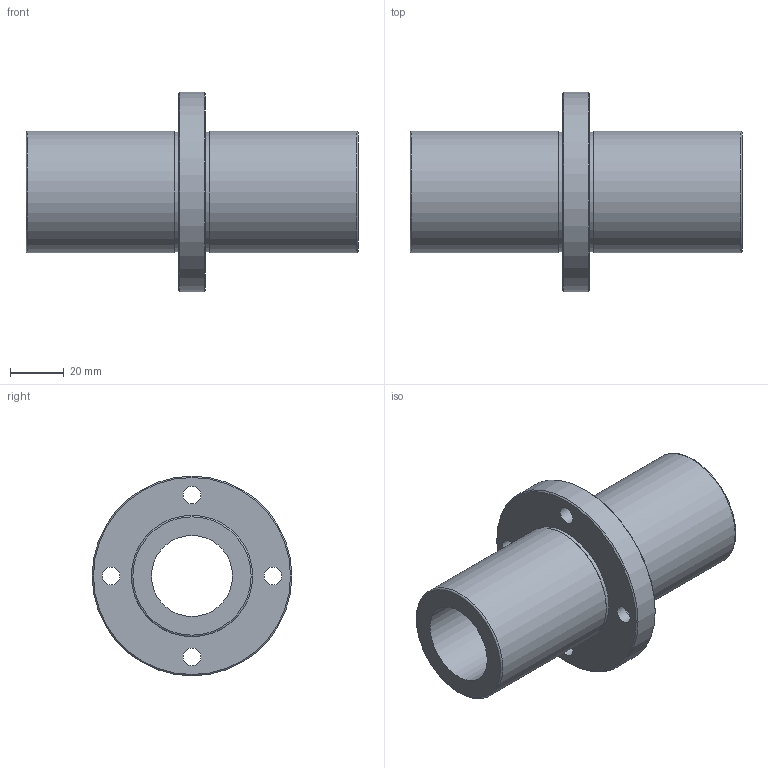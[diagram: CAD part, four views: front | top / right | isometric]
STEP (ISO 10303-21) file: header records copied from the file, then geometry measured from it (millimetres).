
FILE_DESCRIPTION(('STEP AP203'),'1');
FILE_NAME('//192.168.1.1/share/s-4 技術開発/s-4-4_CAD/s-4-4-3_見直し済み/002 修正済み/NFCD-VL/NFCD-VL_TOP/NFCD-30VLUU.step','2022-03-08T04:18:41',(' '),(' '),'Spatial InterOp 3D',' ',' ');
FILE_SCHEMA(('CONFIG_CONTROL_DESIGN'));
Length unit declared in the file: millimetre
Products named in the file (1): 1
Bounding box: 123 x 74 x 74 mm (x, y, z)
Volume: 132765.3 mm3; surface area: 37914.6 mm2
Topology: 1 solids, 1 shells, 28 faces, 56 edges, 38 vertices
Faces by surface type: cylinder 14, plane 10, torus 2, cone 2
Full cylindrical faces by diameter (mm): 6.6 x4, 11 x4, 30 x1, 44.4 x2, 45 x2, 74 x1
Entity records: 668 total; most frequent: DIRECTION 122, CARTESIAN_POINT 93, EDGE_LOOP 64, ORIENTED_EDGE 64, AXIS2_PLACEMENT_3D 61, FACE_OUTER_BOUND 44, EDGE_CURVE 32, VERTEX_POINT 32
